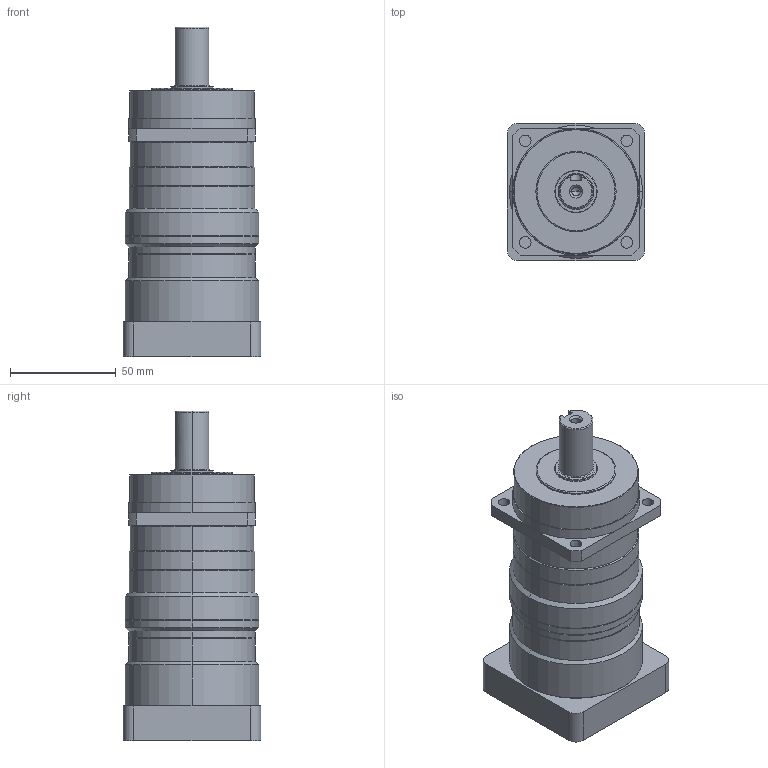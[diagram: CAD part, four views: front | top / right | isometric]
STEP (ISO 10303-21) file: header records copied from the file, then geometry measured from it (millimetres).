
FILE_DESCRIPTION (( 'STEP AP214' ), '1' );
FILE_NAME ('VRS060-L2-S2-P1 14-50-70-M4.STEP', '2023-08-31T08:39:24', ( '微软用户' ), ( '微软中国' ), 'SwSTEP 2.0', 'SolidWorks 2018', '' );
FILE_SCHEMA (( 'AUTOMOTIVE_DESIGN' ));
Length unit declared in the file: millimetre
Products named in the file (1): VRS060-L2-S2-P1 14-50-70-M4
Bounding box: 65 x 65 x 156 mm (x, y, z)
Volume: 378304.1 mm3; surface area: 41851.6 mm2
Topology: 1 solids, 1 shells, 132 faces, 293 edges, 175 vertices
Faces by surface type: cylinder 60, plane 33, cone 32, torus 7
Entity records: 3739 total; most frequent: DIRECTION 707, CARTESIAN_POINT 640, ORIENTED_EDGE 582, EDGE_CURVE 291, AXIS2_PLACEMENT_3D 286, VERTEX_POINT 175, EDGE_LOOP 154, CIRCLE 153
